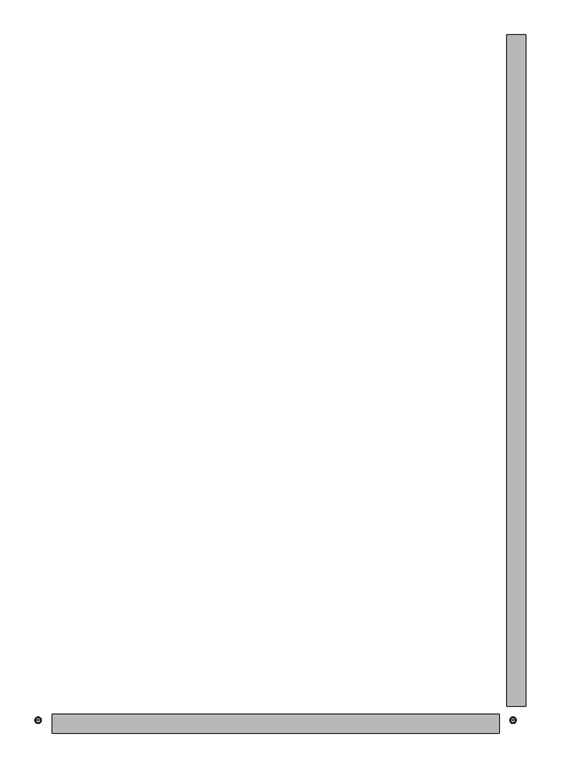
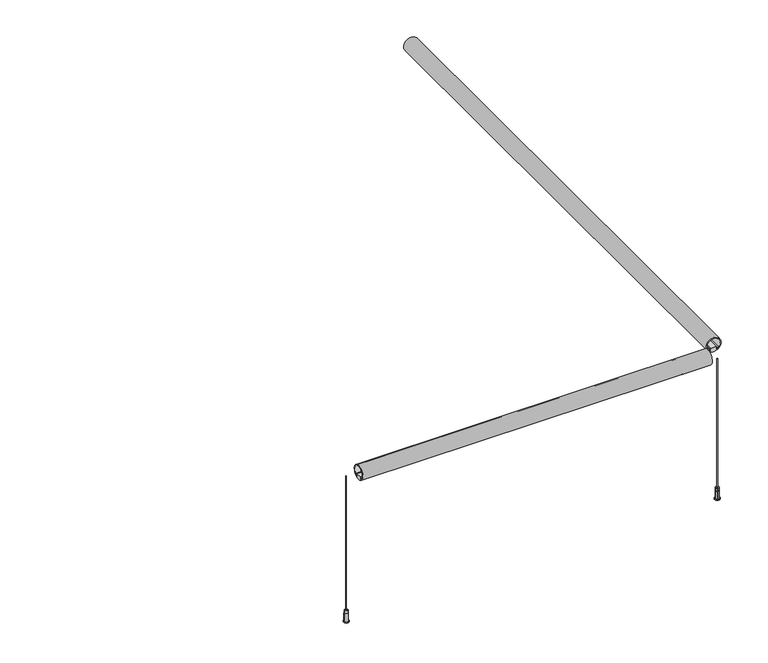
"""IFC4 building model written with IfcOpenShell, lengths in millimetres: light fixture geometry, ARTEMIDE-AoL-StandAlone-SquareRectangular_Suspended : StandALone_Suspended_SquareRectangular-1321x1911mm 11754lm 3000K."""

from ifc_helpers import new_model, si_unit, point, frame, frame_2d, origin, origin_with_axes, place, context, project, spatial, polyline, circle_curve, trimmed, segment, composite_curve, outline, extrude, source, transform, mapped, element, save
from ifc_brep_helpers import plane_surface, cylinder_surface, revolved_surface, advanced_brep


def light_fixture_db04939d(model_context):
    return source(origin(), model_context, "Body", "SolidModel", [
        extrude(outline(composite_curve([segment(polyline([(502.9333396, 1284.2532014), (507.259212, 1284.2532014), (507.259212, 1282.3354474), (505.8288843, 1282.3354474), (507.2440748, 1280.3854474), (509.244074, 1280.3854474), (509.244074, 1283.3354474), (510.744074, 1283.3354474), (510.744074, 1278.725222)]), True, "CONTINUOUS"), segment(trimmed(circle_curve(frame_2d((525.0, 1296.0032014)), 22.4), [point((510.744074, 1278.725222))], [point((510.744074, 1313.2811808))], True, "CARTESIAN"), True, "CONTINUOUS"), segment(polyline([(510.744074, 1313.2811808), (510.744074, 1308.6709554), (509.244074, 1308.6709554), (509.244074, 1311.6209554), (507.2440748, 1311.6209554), (505.8288843, 1309.6709554), (507.259212, 1309.6709554), (507.259212, 1307.7532014), (502.9333396, 1307.7532014)]), True, "CONTINUOUS"), segment(trimmed(circle_curve(frame_2d((525.0, 1296.0032014)), 25.0), [point((502.9333396, 1307.7532014))], [point((502.9333396, 1284.2532014))], False, "CARTESIAN"), True, "CONTINUOUS")], self_intersect=False)), frame((0.0, -69.5, 0.0), z_axis=(0.0, 1.0, 0.0), x_axis=(0.0, 0.0, 1.0)), (0.0, 0.0, 1.0), 1770.0),
        extrude(outline(composite_curve([segment(polyline([(502.9333396, 1307.7532014), (507.259212, 1307.7532014), (507.259212, 1311.3072884), (508.785971, 1311.3072884), (508.785971, 1305.5094589), (514.4273482, 1305.5094589), (514.4273482, 1286.4969439), (508.785971, 1286.4969439), (508.785971, 1280.6991144), (507.259212, 1280.6991144), (507.259212, 1284.2532014), (502.9333396, 1284.2532014)]), True, "CONTINUOUS"), segment(trimmed(circle_curve(frame_2d((525.0, 1296.0032014)), 25.0), [point((502.9333396, 1284.2532014))], [point((502.9333396, 1307.7532014))], False, "CARTESIAN"), True, "CONTINUOUS")], self_intersect=False)), frame((0.0, -69.5, 0.0), z_axis=(0.0, 1.0, 0.0), x_axis=(0.0, 0.0, 1.0)), (0.0, 0.0, 1.0), 1770.0),
        advanced_brep(
        [(34.8, -106.0, 41.0209548), (32.8, -106.0, 41.0209548), (28.3097745, -106.0, 41.0209548), (39.2902255, -106.0, 41.0209548), (34.8, -106.0, 0.0), (32.8, -106.0, 0.0), (42.3523699, -106.0, 0.0), (25.2476301, -106.0, 0.0), (42.3523699, -106.0, 2.0209548), (25.2476301, -106.0, 2.0209548), (40.3523699, -106.0, 2.0209548), (27.2476301, -106.0, 2.0209548), (40.3523699, -106.0, 30.9721976), (27.2476301, -106.0, 30.9721976), (39.2902255, -106.0, 30.9721976), (28.3097745, -106.0, 30.9721976)],
        [
            (0, 1, circle_curve(frame((33.8, -106.0, 41.0209548), z_axis=(0.0, 0.0, -1.0), x_axis=(-1.0, 0.0, 0.0)), 1.0)),
            (1, 2),
            (2, 3, circle_curve(frame((33.8, -106.0, 41.0209548), z_axis=(0.0, 0.0, 1.0), x_axis=(-1.0, 0.0, 0.0)), 5.4902255)),
            (3, 0),
            (1, 0, circle_curve(frame((33.8, -106.0, 41.0209548), z_axis=(0.0, 0.0, -1.0), x_axis=(-1.0, 0.0, 0.0)), 1.0)),
            (3, 2, circle_curve(frame((33.8, -106.0, 41.0209548), z_axis=(0.0, 0.0, 1.0), x_axis=(-1.0, 0.0, 0.0)), 5.4902255)),
            (4, 5, circle_curve(frame((33.8, -106.0, 0.0), z_axis=(0.0, 0.0, -1.0), x_axis=(-1.0, 0.0, 0.0)), 1.0)),
            (5, 1),
            (0, 4),
            (5, 4, circle_curve(frame((33.8, -106.0, 0.0), z_axis=(0.0, 0.0, -1.0), x_axis=(-1.0, 0.0, 0.0)), 1.0)),
            (6, 7, circle_curve(frame((33.8, -106.0, 0.0), z_axis=(0.0, 0.0, -1.0), x_axis=(-1.0, 0.0, 0.0)), 8.5523699)),
            (7, 5),
            (4, 6),
            (7, 6, circle_curve(frame((33.8, -106.0, 0.0), z_axis=(0.0, 0.0, -1.0), x_axis=(-1.0, 0.0, 0.0)), 8.5523699)),
            (8, 9, circle_curve(frame((33.8, -106.0, 2.0209548), z_axis=(0.0, 0.0, -1.0), x_axis=(-1.0, 0.0, 0.0)), 8.5523699)),
            (9, 7),
            (6, 8),
            (9, 8, circle_curve(frame((33.8, -106.0, 2.0209548), z_axis=(0.0, 0.0, -1.0), x_axis=(-1.0, 0.0, 0.0)), 8.5523699)),
            (10, 11, circle_curve(frame((33.8, -106.0, 2.0209548), z_axis=(0.0, 0.0, -1.0), x_axis=(-1.0, 0.0, 0.0)), 6.5523699)),
            (11, 9),
            (8, 10),
            (11, 10, circle_curve(frame((33.8, -106.0, 2.0209548), z_axis=(0.0, 0.0, -1.0), x_axis=(-1.0, 0.0, 0.0)), 6.5523699)),
            (12, 13, circle_curve(frame((33.8, -106.0, 30.9721976), z_axis=(0.0, 0.0, -1.0), x_axis=(-1.0, 0.0, 0.0)), 6.5523699)),
            (13, 11),
            (10, 12),
            (13, 12, circle_curve(frame((33.8, -106.0, 30.9721976), z_axis=(0.0, 0.0, -1.0), x_axis=(-1.0, 0.0, 0.0)), 6.5523699)),
            (14, 15, circle_curve(frame((33.8, -106.0, 30.9721976), z_axis=(0.0, 0.0, -1.0), x_axis=(-1.0, 0.0, 0.0)), 5.4902255)),
            (15, 13),
            (12, 14),
            (15, 14, circle_curve(frame((33.8, -106.0, 30.9721976), z_axis=(0.0, 0.0, -1.0), x_axis=(-1.0, 0.0, 0.0)), 5.4902255)),
            (2, 15),
            (14, 3),
        ],
        [
            plane_surface(frame((33.8, -106.0, 41.0209548), z_axis=(0.0, 0.0, 1.0), x_axis=(-1.0, 0.0, 0.0))),
            revolved_surface(polyline([(32.8, -106.0, 41.02095480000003), (32.8, -106.0, 0.0)]), (33.8, -106.0, 391.16642), (0.0, 0.0, 1.0)),
            plane_surface(frame((33.8, -106.0, 0.0), z_axis=(0.0, 0.0, -1.0), x_axis=(-1.0, 0.0, 0.0))),
            cylinder_surface(frame((33.8, -106.0, 391.16642), z_axis=(0.0, 0.0, 1.0), x_axis=(-1.0, 0.0, 0.0)), 8.5523699),
            plane_surface(frame((33.8, -106.0, 2.0209548), z_axis=(0.0, 0.0, 1.0), x_axis=(-1.0, 0.0, 0.0))),
            cylinder_surface(frame((33.8, -106.0, 391.16642), z_axis=(0.0, 0.0, 1.0), x_axis=(-1.0, 0.0, 0.0)), 6.5523699),
            plane_surface(frame((33.8, -106.0, 30.9721976), z_axis=(0.0, 0.0, 1.0), x_axis=(-1.0, 0.0, 0.0))),
            cylinder_surface(frame((33.8, -106.0, 391.16642), z_axis=(0.0, 0.0, 1.0), x_axis=(-1.0, 0.0, 0.0)), 5.4902255),
        ],
        [
            (0, [[1, 2, 3, 4]]),
            (0, [[5, -4, 6, -2]]),
            (1, [[7, 8, -1, 9]]),
            (1, [[10, -9, -5, -8]]),
            (2, [[11, 12, -7, 13]]),
            (2, [[14, -13, -10, -12]]),
            (3, [[15, 16, -11, 17]]),
            (3, [[18, -17, -14, -16]]),
            (4, [[19, 20, -15, 21]]),
            (4, [[22, -21, -18, -20]]),
            (5, [[23, 24, -19, 25]]),
            (5, [[26, -25, -22, -24]]),
            (6, [[27, 28, -23, 29]]),
            (6, [[30, -29, -26, -28]]),
            (7, [[-3, 31, -27, 32]]),
            (7, [[-6, -32, -30, -31]]),
        ],
    ),
        extrude(outline(composite_curve([segment(trimmed(circle_curve(frame_2d((33.8, -106.0)), 0.8), [point((33.0, -106.0))], [point((34.6, -106.0))], False, "CARTESIAN"), True, "CONTINUOUS"), segment(trimmed(circle_curve(frame_2d((33.8, -106.0)), 0.8), [point((34.6, -106.0))], [point((33.0, -106.0))], False, "CARTESIAN"), True, "CONTINUOUS")], self_intersect=False)), origin_with_axes(), (0.0, 0.0, 1.0), 519.5144391),
        advanced_brep(
        [(1288.0, -106.0, 41.0209548), (1286.0, -106.0, 41.0209548), (1281.5097745, -106.0, 41.0209548), (1292.4902255, -106.0, 41.0209548), (1288.0, -106.0, 0.0), (1286.0, -106.0, 0.0), (1295.5523699, -106.0, 0.0), (1278.4476301, -106.0, 0.0), (1295.5523699, -106.0, 2.0209548), (1278.4476301, -106.0, 2.0209548), (1293.5523699, -106.0, 2.0209548), (1280.4476301, -106.0, 2.0209548), (1293.5523699, -106.0, 30.9721976), (1280.4476301, -106.0, 30.9721976), (1292.4902255, -106.0, 30.9721976), (1281.5097745, -106.0, 30.9721976)],
        [
            (0, 1, circle_curve(frame((1287.0, -106.0, 41.0209548), z_axis=(0.0, 0.0, -1.0), x_axis=(-1.0, 0.0, 0.0)), 1.0)),
            (1, 2),
            (2, 3, circle_curve(frame((1287.0, -106.0, 41.0209548), z_axis=(0.0, 0.0, 1.0), x_axis=(-1.0, 0.0, 0.0)), 5.4902255)),
            (3, 0),
            (1, 0, circle_curve(frame((1287.0, -106.0, 41.0209548), z_axis=(0.0, 0.0, -1.0), x_axis=(-1.0, 0.0, 0.0)), 1.0)),
            (3, 2, circle_curve(frame((1287.0, -106.0, 41.0209548), z_axis=(0.0, 0.0, 1.0), x_axis=(-1.0, 0.0, 0.0)), 5.4902255)),
            (4, 5, circle_curve(frame((1287.0, -106.0, 0.0), z_axis=(0.0, 0.0, -1.0), x_axis=(-1.0, 0.0, 0.0)), 1.0)),
            (5, 1),
            (0, 4),
            (5, 4, circle_curve(frame((1287.0, -106.0, 0.0), z_axis=(0.0, 0.0, -1.0), x_axis=(-1.0, 0.0, 0.0)), 1.0)),
            (6, 7, circle_curve(frame((1287.0, -106.0, 0.0), z_axis=(0.0, 0.0, -1.0), x_axis=(-1.0, 0.0, 0.0)), 8.5523699)),
            (7, 5),
            (4, 6),
            (7, 6, circle_curve(frame((1287.0, -106.0, 0.0), z_axis=(0.0, 0.0, -1.0), x_axis=(-1.0, 0.0, 0.0)), 8.5523699)),
            (8, 9, circle_curve(frame((1287.0, -106.0, 2.0209548), z_axis=(0.0, 0.0, -1.0), x_axis=(-1.0, 0.0, 0.0)), 8.5523699)),
            (9, 7),
            (6, 8),
            (9, 8, circle_curve(frame((1287.0, -106.0, 2.0209548), z_axis=(0.0, 0.0, -1.0), x_axis=(-1.0, 0.0, 0.0)), 8.5523699)),
            (10, 11, circle_curve(frame((1287.0, -106.0, 2.0209548), z_axis=(0.0, 0.0, -1.0), x_axis=(-1.0, 0.0, 0.0)), 6.5523699)),
            (11, 9),
            (8, 10),
            (11, 10, circle_curve(frame((1287.0, -106.0, 2.0209548), z_axis=(0.0, 0.0, -1.0), x_axis=(-1.0, 0.0, 0.0)), 6.5523699)),
            (12, 13, circle_curve(frame((1287.0, -106.0, 30.9721976), z_axis=(0.0, 0.0, -1.0), x_axis=(-1.0, 0.0, 0.0)), 6.5523699)),
            (13, 11),
            (10, 12),
            (13, 12, circle_curve(frame((1287.0, -106.0, 30.9721976), z_axis=(0.0, 0.0, -1.0), x_axis=(-1.0, 0.0, 0.0)), 6.5523699)),
            (14, 15, circle_curve(frame((1287.0, -106.0, 30.9721976), z_axis=(0.0, 0.0, -1.0), x_axis=(-1.0, 0.0, 0.0)), 5.4902255)),
            (15, 13),
            (12, 14),
            (15, 14, circle_curve(frame((1287.0, -106.0, 30.9721976), z_axis=(0.0, 0.0, -1.0), x_axis=(-1.0, 0.0, 0.0)), 5.4902255)),
            (2, 15),
            (14, 3),
        ],
        [
            plane_surface(frame((1287.0, -106.0, 41.0209548), z_axis=(0.0, 0.0, 1.0), x_axis=(-1.0, 0.0, 0.0))),
            revolved_surface(polyline([(1286.0, -106.0, 41.02095480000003), (1286.0, -106.0, 0.0)]), (1287.0, -106.0, 391.16642), (0.0, 0.0, 1.0)),
            plane_surface(frame((1287.0, -106.0, 0.0), z_axis=(0.0, 0.0, -1.0), x_axis=(-1.0, 0.0, 0.0))),
            cylinder_surface(frame((1287.0, -106.0, 391.16642), z_axis=(0.0, 0.0, 1.0), x_axis=(-1.0, 0.0, 0.0)), 8.5523699),
            plane_surface(frame((1287.0, -106.0, 2.0209548), z_axis=(0.0, 0.0, 1.0), x_axis=(-1.0, 0.0, 0.0))),
            cylinder_surface(frame((1287.0, -106.0, 391.16642), z_axis=(0.0, 0.0, 1.0), x_axis=(-1.0, 0.0, 0.0)), 6.5523699),
            plane_surface(frame((1287.0, -106.0, 30.9721976), z_axis=(0.0, 0.0, 1.0), x_axis=(-1.0, 0.0, 0.0))),
            cylinder_surface(frame((1287.0, -106.0, 391.16642), z_axis=(0.0, 0.0, 1.0), x_axis=(-1.0, 0.0, 0.0)), 5.4902255),
        ],
        [
            (0, [[1, 2, 3, 4]]),
            (0, [[5, -4, 6, -2]]),
            (1, [[7, 8, -1, 9]]),
            (1, [[10, -9, -5, -8]]),
            (2, [[11, 12, -7, 13]]),
            (2, [[14, -13, -10, -12]]),
            (3, [[15, 16, -11, 17]]),
            (3, [[18, -17, -14, -16]]),
            (4, [[19, 20, -15, 21]]),
            (4, [[22, -21, -18, -20]]),
            (5, [[23, 24, -19, 25]]),
            (5, [[26, -25, -22, -24]]),
            (6, [[27, 28, -23, 29]]),
            (6, [[30, -29, -26, -28]]),
            (7, [[-3, 31, -27, 32]]),
            (7, [[-6, -32, -30, -31]]),
        ],
    ),
        extrude(outline(composite_curve([segment(trimmed(circle_curve(frame_2d((1287.0, -106.0)), 0.8), [point((1286.2, -106.0))], [point((1287.8, -106.0))], False, "CARTESIAN"), True, "CONTINUOUS"), segment(trimmed(circle_curve(frame_2d((1287.0, -106.0)), 0.8), [point((1287.8, -106.0))], [point((1286.2, -106.0))], False, "CARTESIAN"), True, "CONTINUOUS")], self_intersect=False)), origin_with_axes(), (0.0, 0.0, 1.0), 500.0),
        extrude(outline(composite_curve([segment(trimmed(circle_curve(frame_2d((-115.0, 525.0)), 25.0), [point((-126.75, 502.9333396))], [point((-103.25, 502.9333396))], False, "CARTESIAN"), True, "CONTINUOUS"), segment(polyline([(-103.25, 502.9333396), (-103.25, 507.259212), (-101.332246, 507.259212), (-101.332246, 505.8288843), (-99.382246, 507.2440748), (-99.382246, 509.244074), (-102.332246, 509.244074), (-102.332246, 510.744074), (-97.7220206, 510.744074)]), True, "CONTINUOUS"), segment(trimmed(circle_curve(frame_2d((-115.0, 525.0)), 22.4), [point((-97.7220206, 510.744074))], [point((-132.2779794, 510.744074))], True, "CARTESIAN"), True, "CONTINUOUS"), segment(polyline([(-132.2779794, 510.744074), (-127.667754, 510.744074), (-127.667754, 509.244074), (-130.617754, 509.244074), (-130.617754, 507.2440748), (-128.667754, 505.8288843), (-128.667754, 507.259212), (-126.75, 507.259212), (-126.75, 502.9333396)]), True, "CONTINUOUS")], self_intersect=False)), frame((70.5, 0.0, 0.0), z_axis=(1.0, 0.0, 0.0), x_axis=(0.0, 1.0, 0.0)), (0.0, 0.0, 1.0), 1180.0032014),
        extrude(outline(composite_curve([segment(trimmed(circle_curve(frame_2d((-115.0, 525.0)), 25.0), [point((-103.25, 502.9333396))], [point((-126.75, 502.9333396))], False, "CARTESIAN"), True, "CONTINUOUS"), segment(polyline([(-126.75, 502.9333396), (-126.75, 507.259212), (-130.304087, 507.259212), (-130.304087, 508.785971), (-124.5062575, 508.785971), (-124.5062575, 514.4273482), (-105.4937425, 514.4273482), (-105.4937425, 508.785971), (-99.695913, 508.785971), (-99.695913, 507.259212), (-103.25, 507.259212), (-103.25, 502.9333396)]), True, "CONTINUOUS")], self_intersect=False)), frame((70.5, 0.0, 0.0), z_axis=(1.0, 0.0, 0.0), x_axis=(0.0, 1.0, 0.0)), (0.0, 0.0, 1.0), 1180.0032014),
    ])


if __name__ == "__main__":
    model = new_model("IFC4")
    model_context = context("Model", 3, world=origin())
    ifc_project = project(units=[si_unit("LENGTHUNIT", "METRE", prefix="MILLI")], contexts=[model_context])
    site = spatial("IfcSite", under=ifc_project)
    building = spatial("IfcBuilding", under=site)
    placement = place(None, origin())
    light_fixture_shape = light_fixture_db04939d(model_context)
    element("IfcLightFixture", 1, ObjectType="ARTEMIDE-AoL-StandAlone-SquareRectangular_Suspended : StandALone_Suspended_SquareRectangular-1321x1911mm 11754lm 3000K", at=placement, inside=building, context=model_context, shape_type="MappedRepresentation", body=[
        mapped(light_fixture_shape, transform((0.0, 0.0, 0.0), x_axis=(1.0, 0.0, 0.0), y_axis=(0.0, 1.0, 0.0), z_axis=(0.0, 0.0, 1.0))),
    ])
    save(model, "model.ifc")
